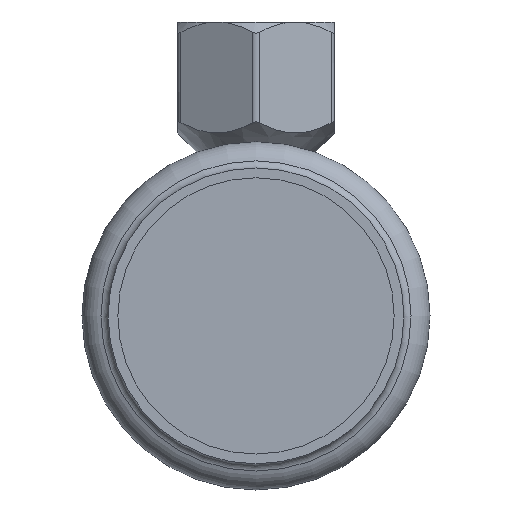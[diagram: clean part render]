
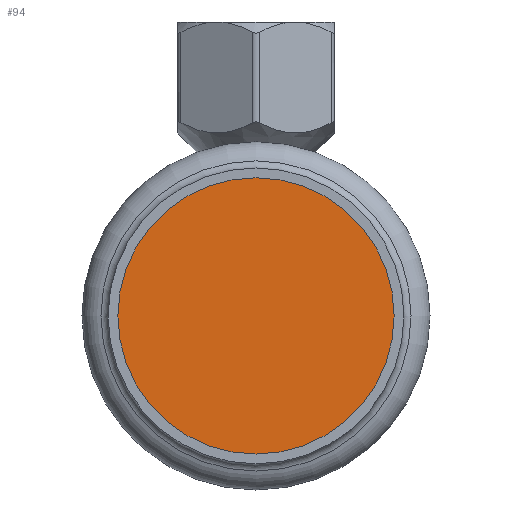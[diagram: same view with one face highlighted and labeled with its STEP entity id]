
A CAD part, front view. The second image highlights one B-rep face of the part: STEP entity #94.
In plain terms, the highlighted planar face has unit normal (0, -1, 0).
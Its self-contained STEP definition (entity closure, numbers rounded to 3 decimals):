
#94=ADVANCED_FACE('',(#429),#431,.T.);
#429=FACE_BOUND('',#430,.T.);
#430=EDGE_LOOP('',(#589));
#431=PLANE('',#432);
#432=AXIS2_PLACEMENT_3D('',#433,#434,#435);
#433=CARTESIAN_POINT('',(0.,-60.292,0.));
#434=DIRECTION('',(0.,-1.,0.));
#435=DIRECTION('',(0.,0.,-1.));
#589=ORIENTED_EDGE('',*,*,#663,.T.);
#663=EDGE_CURVE('',#791,#791,#792,.F.);
#791=VERTEX_POINT('',#2396);
#792=CIRCLE('',#2397,21.15);
#2396=CARTESIAN_POINT('',(0.,-60.292,21.15));
#2397=AXIS2_PLACEMENT_3D('',#2398,#2399,#2400);
#2398=CARTESIAN_POINT('',(0.,-60.292,0.));
#2399=DIRECTION('',(0.,1.,0.));
#2400=DIRECTION('',(0.,0.,1.));
